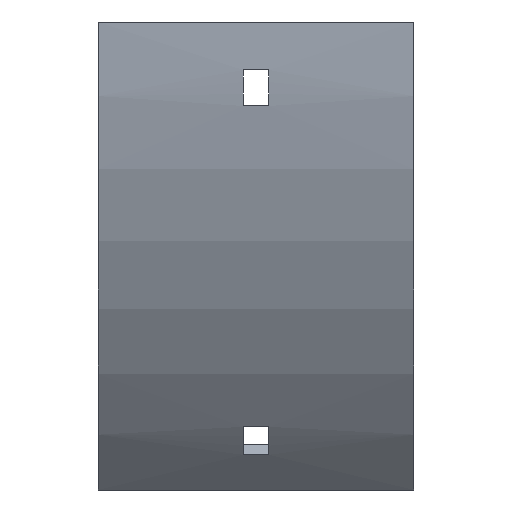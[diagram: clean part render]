
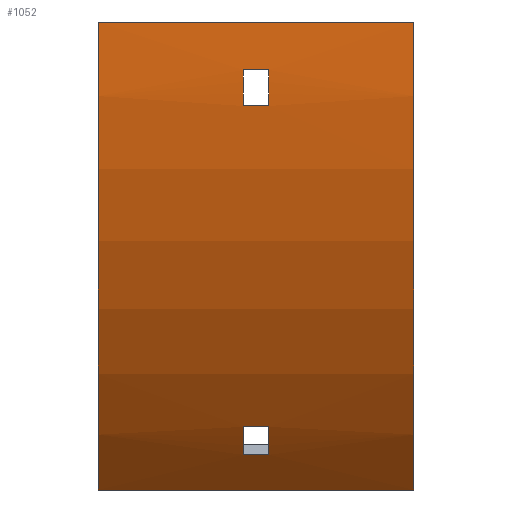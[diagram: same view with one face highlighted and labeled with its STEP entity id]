
A CAD part, front view. The second image highlights one B-rep face of the part: STEP entity #1052.
In plain terms, the highlighted cylindrical face has radius 165.5 mm (diameter 331 mm), a partial arc.
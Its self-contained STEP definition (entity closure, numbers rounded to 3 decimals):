
#10 = DIRECTION ( 'NONE',  ( 1., 0., 0. ) ) ;
#11 = CARTESIAN_POINT ( 'NONE',  ( 39.5, -65.064, -12. ) ) ;
#20 = CARTESIAN_POINT ( 'NONE',  ( 39.5, -64.162, -21. ) ) ;
#21 = ORIENTED_EDGE ( 'NONE', *, *, #886, .F. ) ;
#22 = AXIS2_PLACEMENT_3D ( 'NONE', #816, #10, #363 ) ;
#26 = VERTEX_POINT ( 'NONE', #296 ) ;
#29 = EDGE_CURVE ( 'NONE', #131, #32, #506, .T. ) ;
#32 = VERTEX_POINT ( 'NONE', #1118 ) ;
#38 = DIRECTION ( 'NONE',  ( 0., 0., -1. ) ) ;
#70 = VERTEX_POINT ( 'NONE', #1132 ) ;
#78 = CARTESIAN_POINT ( 'NONE',  ( -39.5, -65.5, 0. ) ) ;
#84 = CARTESIAN_POINT ( 'NONE',  ( -3.25, -25.203, -108.233 ) ) ;
#86 = ORIENTED_EDGE ( 'NONE', *, *, #721, .F. ) ;
#91 = FACE_BOUND ( 'NONE', #785, .T. ) ;
#105 = AXIS2_PLACEMENT_3D ( 'NONE', #679, #151, #516 ) ;
#106 = ORIENTED_EDGE ( 'NONE', *, *, #635, .T. ) ;
#113 = ORIENTED_EDGE ( 'NONE', *, *, #1046, .T. ) ;
#120 = AXIS2_PLACEMENT_3D ( 'NONE', #122, #581, #595 ) ;
#122 = CARTESIAN_POINT ( 'NONE',  ( -3.25, 100., 0. ) ) ;
#131 = VERTEX_POINT ( 'NONE', #410 ) ;
#141 = EDGE_CURVE ( 'NONE', #939, #70, #1112, .T. ) ;
#145 = CIRCLE ( 'NONE', #105, 165.5 ) ;
#151 = DIRECTION ( 'NONE',  ( -1., 0., 0. ) ) ;
#152 = EDGE_CURVE ( 'NONE', #26, #592, #293, .T. ) ;
#170 = FACE_OUTER_BOUND ( 'NONE', #651, .T. ) ;
#183 = DIRECTION ( 'NONE',  ( 1., 0., 0. ) ) ;
#248 = DIRECTION ( 'NONE',  ( -1., 0., 0. ) ) ;
#255 = DIRECTION ( 'NONE',  ( -1., 0., 0. ) ) ;
#264 = DIRECTION ( 'NONE',  ( -1., 0., 0. ) ) ;
#273 = ORIENTED_EDGE ( 'NONE', *, *, #932, .T. ) ;
#287 = DIRECTION ( 'NONE',  ( 1., 0., 0. ) ) ;
#293 = CIRCLE ( 'NONE', #1108, 165.5 ) ;
#294 = ORIENTED_EDGE ( 'NONE', *, *, #902, .F. ) ;
#296 = CARTESIAN_POINT ( 'NONE',  ( 3.25, -65.064, -12. ) ) ;
#307 = EDGE_CURVE ( 'NONE', #1085, #1086, #647, .T. ) ;
#315 = DIRECTION ( 'NONE',  ( -1., 0., 0. ) ) ;
#349 = VECTOR ( 'NONE', #1141, 1000. ) ;
#352 = VERTEX_POINT ( 'NONE', #1058 ) ;
#356 = CARTESIAN_POINT ( 'NONE',  ( 39.5, -65.5, 0. ) ) ;
#363 = DIRECTION ( 'NONE',  ( 0., 0., -1. ) ) ;
#368 = VECTOR ( 'NONE', #255, 1000. ) ;
#370 = VECTOR ( 'NONE', #315, 1000. ) ;
#371 = CARTESIAN_POINT ( 'NONE',  ( 3.25, -30.929, -101.231 ) ) ;
#384 = VERTEX_POINT ( 'NONE', #84 ) ;
#410 = CARTESIAN_POINT ( 'NONE',  ( -3.25, -64.162, -21. ) ) ;
#411 = AXIS2_PLACEMENT_3D ( 'NONE', #947, #957, #614 ) ;
#413 = VECTOR ( 'NONE', #248, 1000. ) ;
#437 = EDGE_CURVE ( 'NONE', #592, #131, #619, .T. ) ;
#448 = DIRECTION ( 'NONE',  ( 0., 0., 1. ) ) ;
#449 = DIRECTION ( 'NONE',  ( -1., 0., 0. ) ) ;
#459 = FACE_BOUND ( 'NONE', #912, .T. ) ;
#487 = CARTESIAN_POINT ( 'NONE',  ( 3.25, -25.203, -108.233 ) ) ;
#498 = CARTESIAN_POINT ( 'NONE',  ( 39.5, -30.929, -101.231 ) ) ;
#506 = CIRCLE ( 'NONE', #120, 165.5 ) ;
#511 = ORIENTED_EDGE ( 'NONE', *, *, #152, .T. ) ;
#516 = DIRECTION ( 'NONE',  ( 0., 0., 1. ) ) ;
#532 = ORIENTED_EDGE ( 'NONE', *, *, #307, .F. ) ;
#534 = VECTOR ( 'NONE', #449, 1000. ) ;
#581 = DIRECTION ( 'NONE',  ( -1., 0., 0. ) ) ;
#590 = CIRCLE ( 'NONE', #834, 165.5 ) ;
#592 = VERTEX_POINT ( 'NONE', #1121 ) ;
#595 = DIRECTION ( 'NONE',  ( 0., 0., 1. ) ) ;
#614 = DIRECTION ( 'NONE',  ( 0., 0., -1. ) ) ;
#619 = LINE ( 'NONE', #20, #534 ) ;
#628 = DIRECTION ( 'NONE',  ( 1., 0., 0. ) ) ;
#635 = EDGE_CURVE ( 'NONE', #963, #1086, #941, .T. ) ;
#637 = LINE ( 'NONE', #11, #349 ) ;
#647 = LINE ( 'NONE', #1004, #413 ) ;
#651 = EDGE_LOOP ( 'NONE', ( #106, #532, #86, #113 ) ) ;
#679 = CARTESIAN_POINT ( 'NONE',  ( 3.25, 100., 0. ) ) ;
#711 = CYLINDRICAL_SURFACE ( 'NONE', #722, 165.5 ) ;
#720 = ORIENTED_EDGE ( 'NONE', *, *, #1057, .F. ) ;
#721 = EDGE_CURVE ( 'NONE', #352, #1085, #590, .T. ) ;
#722 = AXIS2_PLACEMENT_3D ( 'NONE', #1068, #264, #448 ) ;
#732 = ORIENTED_EDGE ( 'NONE', *, *, #141, .F. ) ;
#785 = EDGE_LOOP ( 'NONE', ( #983, #1089, #273, #511 ) ) ;
#803 = LINE ( 'NONE', #1064, #1020 ) ;
#816 = CARTESIAN_POINT ( 'NONE',  ( -39.5, 100., 0. ) ) ;
#834 = AXIS2_PLACEMENT_3D ( 'NONE', #936, #287, #38 ) ;
#858 = CIRCLE ( 'NONE', #411, 165.5 ) ;
#886 = EDGE_CURVE ( 'NONE', #70, #384, #858, .T. ) ;
#895 = CARTESIAN_POINT ( 'NONE',  ( 3.25, 100., 0. ) ) ;
#902 = EDGE_CURVE ( 'NONE', #1150, #939, #145, .T. ) ;
#912 = EDGE_LOOP ( 'NONE', ( #21, #732, #294, #720 ) ) ;
#915 = CARTESIAN_POINT ( 'NONE',  ( -39.5, -17.026, -117.026 ) ) ;
#932 = EDGE_CURVE ( 'NONE', #32, #26, #637, .T. ) ;
#933 = CARTESIAN_POINT ( 'NONE',  ( 39.5, -17.026, -117.026 ) ) ;
#936 = CARTESIAN_POINT ( 'NONE',  ( 39.5, 100., 0. ) ) ;
#939 = VERTEX_POINT ( 'NONE', #371 ) ;
#941 = CIRCLE ( 'NONE', #22, 165.5 ) ;
#947 = CARTESIAN_POINT ( 'NONE',  ( -3.25, 100., 0. ) ) ;
#957 = DIRECTION ( 'NONE',  ( 1., 0., 0. ) ) ;
#963 = VERTEX_POINT ( 'NONE', #78 ) ;
#968 = LINE ( 'NONE', #356, #368 ) ;
#983 = ORIENTED_EDGE ( 'NONE', *, *, #437, .T. ) ;
#984 = DIRECTION ( 'NONE',  ( 0., 0., -1. ) ) ;
#1004 = CARTESIAN_POINT ( 'NONE',  ( 39.5, -17.026, -117.026 ) ) ;
#1020 = VECTOR ( 'NONE', #183, 1000. ) ;
#1046 = EDGE_CURVE ( 'NONE', #352, #963, #968, .T. ) ;
#1052 = ADVANCED_FACE ( 'NONE', ( #170, #91, #459 ), #711, .T. ) ;
#1057 = EDGE_CURVE ( 'NONE', #384, #1150, #803, .T. ) ;
#1058 = CARTESIAN_POINT ( 'NONE',  ( 39.5, -65.5, 0. ) ) ;
#1064 = CARTESIAN_POINT ( 'NONE',  ( 39.5, -25.203, -108.233 ) ) ;
#1068 = CARTESIAN_POINT ( 'NONE',  ( 39.5, 100., 0. ) ) ;
#1085 = VERTEX_POINT ( 'NONE', #933 ) ;
#1086 = VERTEX_POINT ( 'NONE', #915 ) ;
#1089 = ORIENTED_EDGE ( 'NONE', *, *, #29, .T. ) ;
#1108 = AXIS2_PLACEMENT_3D ( 'NONE', #895, #628, #984 ) ;
#1112 = LINE ( 'NONE', #498, #370 ) ;
#1118 = CARTESIAN_POINT ( 'NONE',  ( -3.25, -65.064, -12. ) ) ;
#1121 = CARTESIAN_POINT ( 'NONE',  ( 3.25, -64.162, -21. ) ) ;
#1132 = CARTESIAN_POINT ( 'NONE',  ( -3.25, -30.929, -101.231 ) ) ;
#1141 = DIRECTION ( 'NONE',  ( 1., 0., 0. ) ) ;
#1150 = VERTEX_POINT ( 'NONE', #487 ) ;
